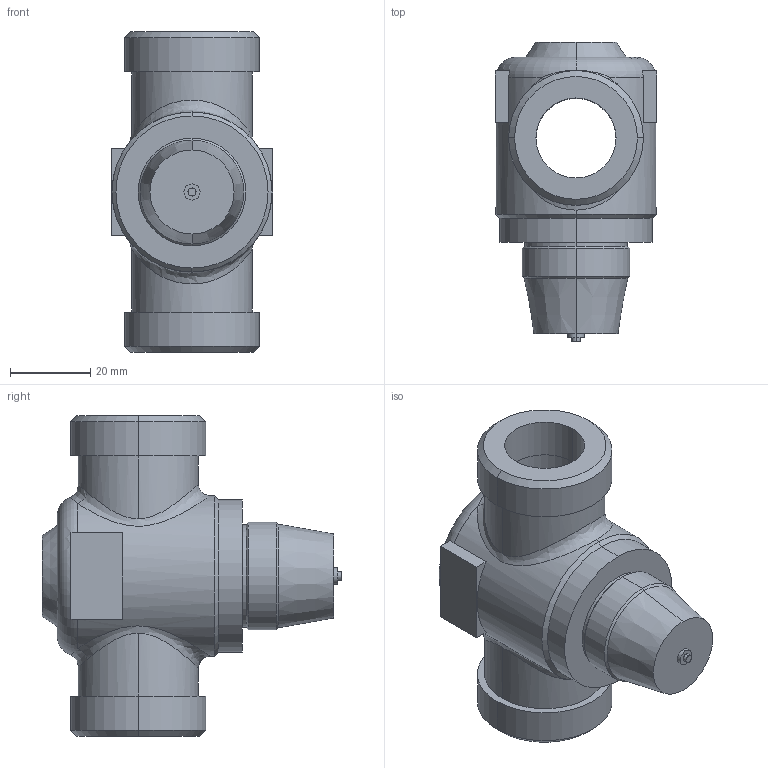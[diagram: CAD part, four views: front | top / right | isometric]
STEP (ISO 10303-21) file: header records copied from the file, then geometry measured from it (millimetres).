
FILE_DESCRIPTION((''),'2;1');
FILE_NAME('000382.dwg.stp','2006-10-04T11:29:00',(''),(''),'Mechanical Desktop 2006','Mechanical Desktop 2006',', , ');
FILE_SCHEMA(('AUTOMOTIVE_DESIGN { 1 2 10303 214 0 1 1 1 }'));
Length unit declared in the file: millimetre
Products named in the file (1): Product
Bounding box: 40.27 x 74.9 x 80 mm (x, y, z)
Volume: 78862.1 mm3; surface area: 24049.2 mm2
Topology: 8 solids, 8 shells, 75 faces, 162 edges, 104 vertices
Faces by surface type: plane 26, cylinder 24, cone 14, bspline 9, torus 2
Entity records: 3090 total; most frequent: CARTESIAN_POINT 1394, DIRECTION 350, ORIENTED_EDGE 324, EDGE_CURVE 162, AXIS2_PLACEMENT_3D 145, VERTEX_POINT 104, EDGE_LOOP 82, CIRCLE 78
